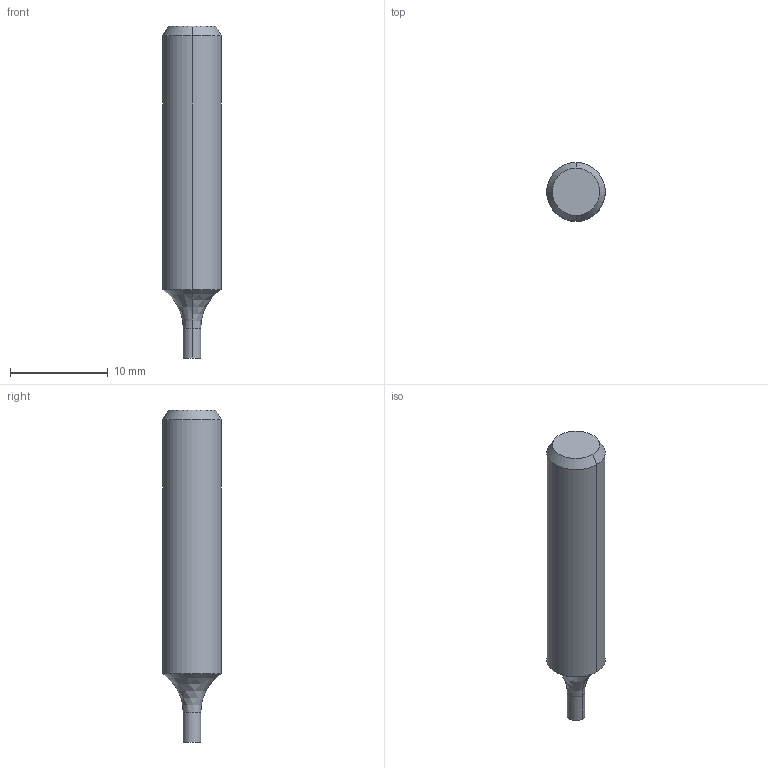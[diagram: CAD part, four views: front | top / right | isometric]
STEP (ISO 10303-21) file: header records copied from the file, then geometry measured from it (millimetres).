
FILE_DESCRIPTION((''),'2;1');
FILE_NAME('DIN4003_82_HEURO','2018-10-10T',('automd'),(''),'PRO/ENGINEER BY PARAMETRIC TECHNOLOGY CORPORATION, 2015280','PRO/ENGINEER BY PARAMETRIC TECHNOLOGY CORPORATION, 2015280','');
FILE_SCHEMA(('AUTOMOTIVE_DESIGN { 1 0 10303 214 1 1 1 1 }'));
Length unit declared in the file: millimetre
Products named in the file (1): DIN4003_82_HEURO
Bounding box: 6 x 6 x 34 mm (x, y, z)
Volume: 799.6 mm3; surface area: 595.6 mm2
Topology: 1 solids, 1 shells, 10 faces, 20 edges, 13 vertices
Faces by surface type: bspline 10
Entity records: 731 total; most frequent: CARTESIAN_POINT 305, DIRECTION 61, ORIENTED_EDGE 36, AXIS2_PLACEMENT_3D 24, PRESENTATION_STYLE_ASSIGNMENT 20, STYLED_ITEM 20, COLOUR_RGB 18, EDGE_CURVE 18
